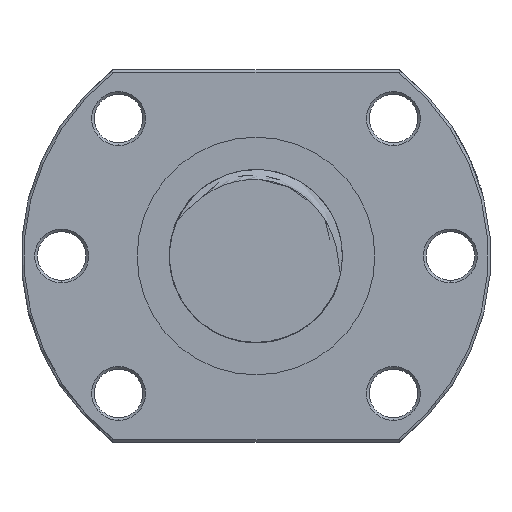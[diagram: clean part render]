
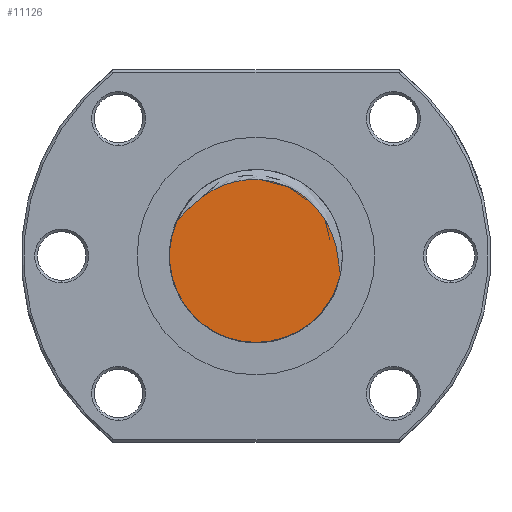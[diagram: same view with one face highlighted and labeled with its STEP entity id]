
A CAD part, left-side view. The second image highlights one B-rep face of the part: STEP entity #11126.
In plain terms, the highlighted planar face has unit normal (-1, 0, 0).
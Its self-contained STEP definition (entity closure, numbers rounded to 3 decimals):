
#10837 = VERTEX_POINT ( 'NONE', #12417 ) ;
#10846 = VERTEX_POINT ( 'NONE', #12319 ) ;
#10848 = EDGE_CURVE ( 'NONE', #10846, #10837, #12317, .T. ) ;
#11122 = EDGE_CURVE ( 'NONE', #11123, #10846, #16118, .T. ) ;
#11123 = VERTEX_POINT ( 'NONE', #16104 ) ;
#11126 = ADVANCED_FACE ( 'NONE', ( #16103 ), #16099, .F. ) ;
#11127 = EDGE_LOOP ( 'NONE', ( #11128, #11129, #11131 ) ) ;
#11128 = ORIENTED_EDGE ( 'NONE', *, *, #11122, .F. ) ;
#11129 = ORIENTED_EDGE ( 'NONE', *, *, #11130, .T. ) ;
#11130 = EDGE_CURVE ( 'NONE', #11123, #10837, #16078, .T. ) ;
#11131 = ORIENTED_EDGE ( 'NONE', *, *, #10848, .F. ) ;
#12313 = DIRECTION ( 'NONE',  ( 0., 1., 0. ) ) ;
#12314 = DIRECTION ( 'NONE',  ( 1., 0., 0. ) ) ;
#12315 = CARTESIAN_POINT ( 'NONE',  ( -127., 0., 0. ) ) ;
#12316 = AXIS2_PLACEMENT_3D ( 'NONE', #12315, #12314, #12313 ) ;
#12317 = CIRCLE ( 'NONE', #12316, 16. ) ;
#12319 = CARTESIAN_POINT ( 'NONE',  ( -127., 0., -16. ) ) ;
#12417 = CARTESIAN_POINT ( 'NONE',  ( -127., 14.64, 6.455 ) ) ;
#13903 = CARTESIAN_POINT ( 'NONE',  ( -127., -12.938, 6.5 ) ) ;
#14756 = CARTESIAN_POINT ( 'NONE',  ( -127., -11.684, 8.358 ) ) ;
#14760 = CARTESIAN_POINT ( 'NONE',  ( -127., -12.221, 7.642 ) ) ;
#16050 = CARTESIAN_POINT ( 'NONE',  ( -127., -13.163, 6.107 ) ) ;
#16052 = CARTESIAN_POINT ( 'NONE',  ( -127., -13.581, 5.303 ) ) ;
#16054 = CARTESIAN_POINT ( 'NONE',  ( -127., -13.772, 4.896 ) ) ;
#16056 = CARTESIAN_POINT ( 'NONE',  ( -127., -14.293, 3.658 ) ) ;
#16058 = CARTESIAN_POINT ( 'NONE',  ( -127., -14.572, 2.811 ) ) ;
#16060 = CARTESIAN_POINT ( 'NONE',  ( -127., -15.013, 1.082 ) ) ;
#16062 = CARTESIAN_POINT ( 'NONE',  ( -127., -15.173, 0.198 ) ) ;
#16064 = CARTESIAN_POINT ( 'NONE',  ( -127., -15.352, -1.144 ) ) ;
#16066 = CARTESIAN_POINT ( 'NONE',  ( -127., -15.401, -1.593 ) ) ;
#16068 = CARTESIAN_POINT ( 'NONE',  ( -127., -15.475, -2.266 ) ) ;
#16070 = CARTESIAN_POINT ( 'NONE',  ( -127., -15.5, -2.491 ) ) ;
#16072 = CARTESIAN_POINT ( 'NONE',  ( -127., -15.557, -2.939 ) ) ;
#16074 = CARTESIAN_POINT ( 'NONE',  ( -127., -15.589, -3.163 ) ) ;
#16076 = CARTESIAN_POINT ( 'NONE',  ( -127., -15.638, -3.383 ) ) ;
#16078 = B_SPLINE_CURVE_WITH_KNOTS ( 'NONE', 3,
 ( #16076, #16074, #16072, #16070, #16068, #16066, #16064, #16062, #16060, #16058, #16056, #16054, #16052, #16050, #13903, #14760, #14756, #16553, #16551, #16549, #16547, #16545, #16543, #16541, #16539, #16537, #16535, #16533, #16531, #16529, #16527, #16525, #16523, #16521, #16519, #16517, #16515, #16514, #16512, #16510, #16508, #16506, #16504, #16502, #16500, #16498, #16496, #16494, #16492, #16490, #16488, #16486, #16485, #16483 ),
 .UNSPECIFIED., .F., .F.,
 ( 4, 2, 2, 2, 2, 2, 2, 2, 2, 2, 2, 2, 2, 2, 2, 2, 2, 2, 2, 2, 2, 2, 2, 2, 2, 2, 4 ),
 ( 0.001, 0.002, 0.002, 0.004, 0.006, 0.009, 0.011, 0.012, 0.015, 0.016, 0.017, 0.02, 0.021, 0.023, 0.026, 0.027, 0.028, 0.031, 0.032, 0.034, 0.037, 0.038, 0.039, 0.042, 0.043, 0.044, 0.045 ),
 .UNSPECIFIED. ) ;
#16093 = DIRECTION ( 'NONE',  ( 0., 0., -1. ) ) ;
#16095 = DIRECTION ( 'NONE',  ( 1., 0., 0. ) ) ;
#16097 = CARTESIAN_POINT ( 'NONE',  ( -127., 0., 0. ) ) ;
#16098 = AXIS2_PLACEMENT_3D ( 'NONE', #16097, #16095, #16093 ) ;
#16099 = PLANE ( 'NONE',  #16098 ) ;
#16103 = FACE_OUTER_BOUND ( 'NONE', #11127, .T. ) ;
#16104 = CARTESIAN_POINT ( 'NONE',  ( -127., -15.638, -3.383 ) ) ;
#16106 = DIRECTION ( 'NONE',  ( 0., 1., 0. ) ) ;
#16107 = DIRECTION ( 'NONE',  ( 1., 0., 0. ) ) ;
#16108 = CARTESIAN_POINT ( 'NONE',  ( -127., 0., 0. ) ) ;
#16109 = AXIS2_PLACEMENT_3D ( 'NONE', #16108, #16107, #16106 ) ;
#16118 = CIRCLE ( 'NONE', #16109, 16. ) ;
#16483 = CARTESIAN_POINT ( 'NONE',  ( -127., 14.64, 6.455 ) ) ;
#16485 = CARTESIAN_POINT ( 'NONE',  ( -127., 14.47, 6.605 ) ) ;
#16486 = CARTESIAN_POINT ( 'NONE',  ( -127., 14.313, 6.768 ) ) ;
#16488 = CARTESIAN_POINT ( 'NONE',  ( -127., 14.002, 7.097 ) ) ;
#16490 = CARTESIAN_POINT ( 'NONE',  ( -127., 13.85, 7.265 ) ) ;
#16492 = CARTESIAN_POINT ( 'NONE',  ( -127., 13.393, 7.767 ) ) ;
#16494 = CARTESIAN_POINT ( 'NONE',  ( -127., 13.088, 8.103 ) ) ;
#16496 = CARTESIAN_POINT ( 'NONE',  ( -127., 12.151, 9.086 ) ) ;
#16498 = CARTESIAN_POINT ( 'NONE',  ( -127., 11.496, 9.713 ) ) ;
#16500 = CARTESIAN_POINT ( 'NONE',  ( -127., 10.453, 10.576 ) ) ;
#16502 = CARTESIAN_POINT ( 'NONE',  ( -127., 10.095, 10.852 ) ) ;
#16504 = CARTESIAN_POINT ( 'NONE',  ( -127., 9.358, 11.377 ) ) ;
#16506 = CARTESIAN_POINT ( 'NONE',  ( -127., 8.978, 11.626 ) ) ;
#16508 = CARTESIAN_POINT ( 'NONE',  ( -127., 7.818, 12.321 ) ) ;
#16510 = CARTESIAN_POINT ( 'NONE',  ( -127., 7.015, 12.719 ) ) ;
#16512 = CARTESIAN_POINT ( 'NONE',  ( -127., 5.763, 13.216 ) ) ;
#16514 = CARTESIAN_POINT ( 'NONE',  ( -127., 5.339, 13.365 ) ) ;
#16515 = CARTESIAN_POINT ( 'NONE',  ( -127., 4.473, 13.628 ) ) ;
#16517 = CARTESIAN_POINT ( 'NONE',  ( -127., 4.033, 13.742 ) ) ;
#16519 = CARTESIAN_POINT ( 'NONE',  ( -127., 2.713, 14.023 ) ) ;
#16521 = CARTESIAN_POINT ( 'NONE',  ( -127., 1.824, 14.133 ) ) ;
#16523 = CARTESIAN_POINT ( 'NONE',  ( -127., 0.478, 14.181 ) ) ;
#16525 = CARTESIAN_POINT ( 'NONE',  ( -127., 0.027, 14.177 ) ) ;
#16527 = CARTESIAN_POINT ( 'NONE',  ( -127., -0.879, 14.13 ) ) ;
#16529 = CARTESIAN_POINT ( 'NONE',  ( -127., -1.329, 14.087 ) ) ;
#16531 = CARTESIAN_POINT ( 'NONE',  ( -127., -2.663, 13.899 ) ) ;
#16533 = CARTESIAN_POINT ( 'NONE',  ( -127., -3.535, 13.699 ) ) ;
#16535 = CARTESIAN_POINT ( 'NONE',  ( -127., -4.816, 13.28 ) ) ;
#16537 = CARTESIAN_POINT ( 'NONE',  ( -127., -5.24, 13.12 ) ) ;
#16539 = CARTESIAN_POINT ( 'NONE',  ( -127., -6.073, 12.762 ) ) ;
#16541 = CARTESIAN_POINT ( 'NONE',  ( -127., -6.479, 12.566 ) ) ;
#16543 = CARTESIAN_POINT ( 'NONE',  ( -127., -7.664, 11.928 ) ) ;
#16545 = CARTESIAN_POINT ( 'NONE',  ( -127., -8.412, 11.437 ) ) ;
#16547 = CARTESIAN_POINT ( 'NONE',  ( -127., -9.471, 10.603 ) ) ;
#16549 = CARTESIAN_POINT ( 'NONE',  ( -127., -9.814, 10.308 ) ) ;
#16551 = CARTESIAN_POINT ( 'NONE',  ( -127., -10.474, 9.687 ) ) ;
#16553 = CARTESIAN_POINT ( 'NONE',  ( -127., -10.788, 9.363 ) ) ;
